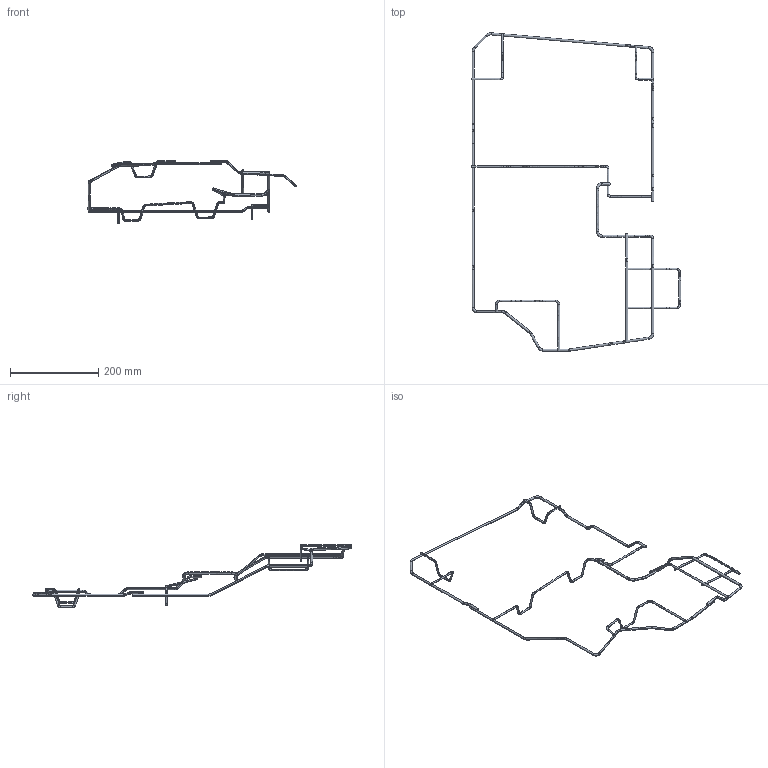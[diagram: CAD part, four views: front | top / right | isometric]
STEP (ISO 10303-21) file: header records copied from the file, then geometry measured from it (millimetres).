
FILE_DESCRIPTION(('CATIA V5 STEP Exchange'),'2;1');
FILE_NAME('C:\Users\wangyangguang\Desktop\统帅泡沫数据修改-20230406\SLT0010612-更改后.stp','2023-04-07T06:12:27+00:00',('none'),('none'),'CATIA Version 5 Release 20 GA (IN-10)','CATIA V5 STEP AP203','none');
FILE_SCHEMA(('CONFIG_CONTROL_DESIGN'));
Length unit declared in the file: millimetre
Products named in the file (1): SLT0010614_AllCATPart
Bounding box: 474.08 x 721.69 x 143.2 mm (x, y, z)
Volume: 71710.7 mm3; surface area: 62032.5 mm2
Topology: 9 solids, 9 shells, 324 faces, 684 edges, 378 vertices
Faces by surface type: bspline 145, torus 98, cylinder 63, plane 18
Entity records: 13191 total; most frequent: CARTESIAN_POINT 8098, ORIENTED_EDGE 1368, EDGE_CURVE 684, DIRECTION 622, AXIS2_PLACEMENT_3D 425, VERTEX_POINT 378, ADVANCED_FACE 324, EDGE_LOOP 324
